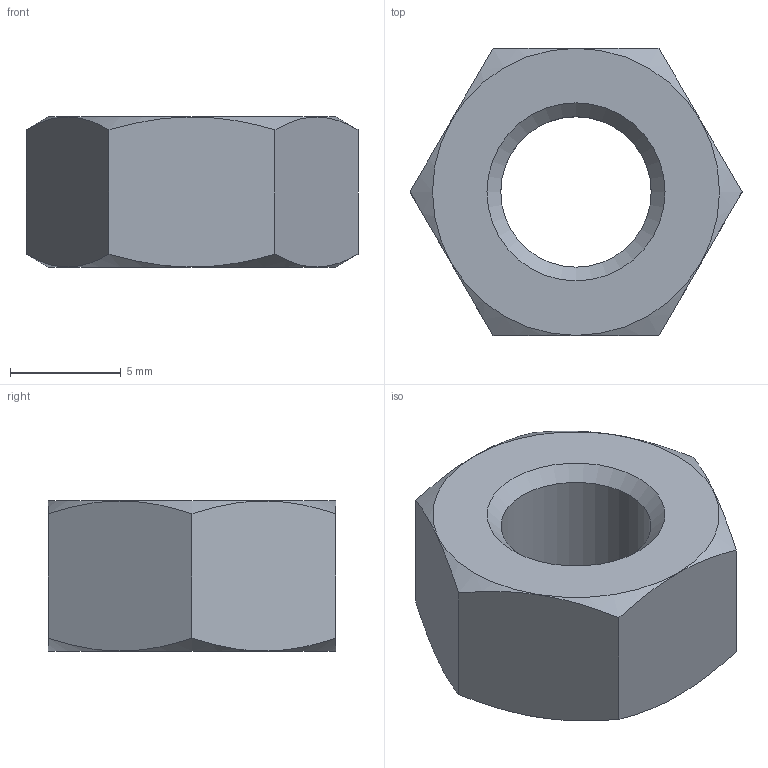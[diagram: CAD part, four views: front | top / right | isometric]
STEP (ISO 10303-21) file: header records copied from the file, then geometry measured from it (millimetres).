
FILE_DESCRIPTION( ( 'Unknown' ), '1' );
FILE_NAME( 'E:/-=Projekty=-/Projekty PKM/Solid Edge Standard Parts/nakrętki 4032/M8_PN-EN-ISO 4032_2004.stp', 'Unknown', ( 'Unknown' ), ( 'Unknown' ), 'PSStep 14.0', 'Unknown', ' ' );
FILE_SCHEMA( ( 'AUTOMOTIVE_DESIGN { 1 0 10303 214 1 1 1 1 }' ) );
Length unit declared in the file: millimetre
Products named in the file (1): 1
Bounding box: 15.01 x 13 x 6.8 mm (x, y, z)
Volume: 734.5 mm3; surface area: 642.8 mm2
Topology: 1 solids, 1 shells, 13 faces, 29 edges, 18 vertices
Faces by surface type: plane 8, cone 4, cylinder 1
Full cylindrical faces by diameter (mm): 6.8 x1
Entity records: 556 total; most frequent: CARTESIAN_POINT 180, ORIENTED_EDGE 48, DIRECTION 46, EDGE_CURVE 24, AXIS2_PLACEMENT_3D 20, EDGE_LOOP 20, VERTEX_POINT 18, FACE_OUTER_BOUND 14
